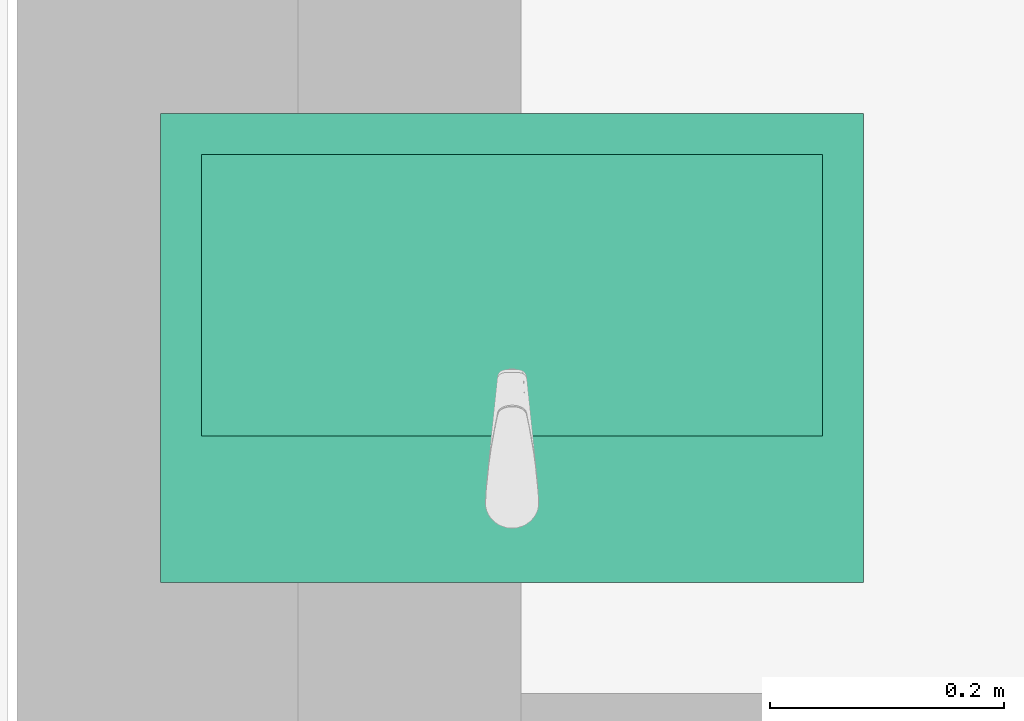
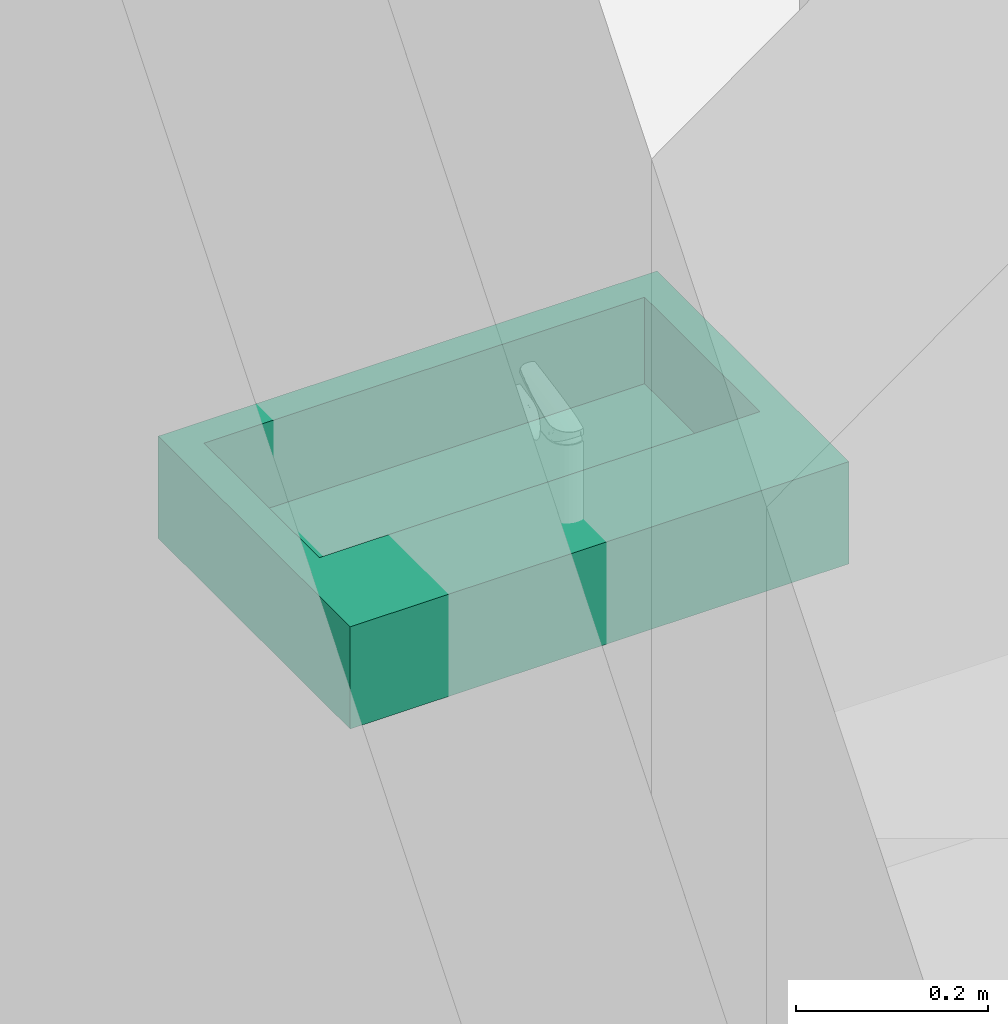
# One storey, part 14 of 42: 1 flow terminal.
"""IFC2X3 building model written with IfcOpenShell, lengths in millimetres."""

from ifc_helpers import new_model, entity, si_unit, converted_unit, direction, frame, origin, place, context, subcontext, project, spatial, faceted_brep, source, transform, mapped, material, type_object, type_shapes, element, save


model = new_model("IFC2X3")

# Units and contexts
model_context = context("Model", 3, precision=0.01, world=origin(), true_north=direction((6.123233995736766e-17, 1.0)))
plan_context = context("Plan", 3, precision=0.01, world=origin(), true_north=direction((6.123233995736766e-17, 1.0)))
body_context = subcontext(model_context, "Body", "Model", "MODEL_VIEW")
ifc_project = project(units=[si_unit("LENGTHUNIT", "METRE", prefix="MILLI"), converted_unit("PLANEANGLEUNIT", "DEGREE", entity("IfcPlaneAngleMeasure", 0.017453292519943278), si_unit("PLANEANGLEUNIT", "RADIAN"), dimensions=[0, 0, 0, 0, 0, 0, 0]), si_unit("AREAUNIT", "SQUARE_METRE")], contexts=[model_context, plan_context])

# Site, building, storey
site_placement = place(None, origin())
site = spatial("IfcSite", under=ifc_project, at=site_placement, Name="Default", CompositionType="ELEMENT")
building_placement = place(site_placement, origin())
building = spatial("IfcBuilding", under=site, at=building_placement, CompositionType="ELEMENT")
storey_placement = place(building_placement, frame((0.0, 0.0, 9465.000076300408)))
storey = spatial("IfcBuildingStorey", under=building, at=storey_placement, Name="4K", CompositionType="ELEMENT", Elevation=9465.000076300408)

# Flow terminal
ifc_material = material(Name="<Unnamed>")
distribution_element_type = type_object("IfcDistributionElementType", Name="HR_Plumbing-fixtures_Sink_Generic_Bathroom_v1:600 x 400 mm", material=ifc_material)
shared_shape = source(origin(), body_context, "Body", "Brep", [
    faceted_brep([(300.0, 0.0, -3325.0), (-300.0, 0.0, -3325.0), (-300.0, -400.0, -3325.0), (300.0, -400.0, -3325.0), (-265.0, -125.0, -3325.0), (265.0, -125.0, -3325.0), (265.0, -365.0, -3325.0), (-265.0, -365.0, -3325.0), (300.0, 0.0, -3455.0), (300.0, -400.0, -3455.0), (-300.0, -400.0, -3455.0), (-300.0, 0.0, -3455.0), (265.0, -125.0, -3435.0), (-265.0, -125.0, -3435.0), (-265.0, -365.0, -3435.0), (265.0, -365.0, -3435.0)], [[[0, 1, 2, 3], [4, 5, 6, 7]], [[8, 9, 10, 11]], [[1, 0, 8, 11]], [[2, 1, 11, 10]], [[3, 2, 10, 9]], [[0, 3, 9, 8]], [[12, 13, 14, 15]], [[13, 12, 5, 4]], [[14, 13, 4, 7]], [[15, 14, 7, 6]], [[12, 15, 6, 5]]]),
])
type_shapes(distribution_element_type, [shared_shape])
flow_terminal_placement = place(storey_placement, frame((-7.503232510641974, 6740.000000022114, 4925.0), z_axis=(0.0, 0.0, 1.0), x_axis=(-1.0, 0.0, 0.0)))
element("IfcFlowTerminal", 1, at=flow_terminal_placement, inside=storey, type_object=distribution_element_type, material=ifc_material, Name="HR_Plumbing-fixtures_Sink_Generic_Bathroom_v1:600 x 400 mm", ObjectType="HR_Plumbing-fixtures_Sink_Generic_Bathroom_v1:600 x 400 mm", context=body_context, shape_type="MappedRepresentation", body=[
    mapped(shared_shape, transform((0.0, 0.0, 0.0), scale=1.0)),
])

save(model, "model.ifc")
